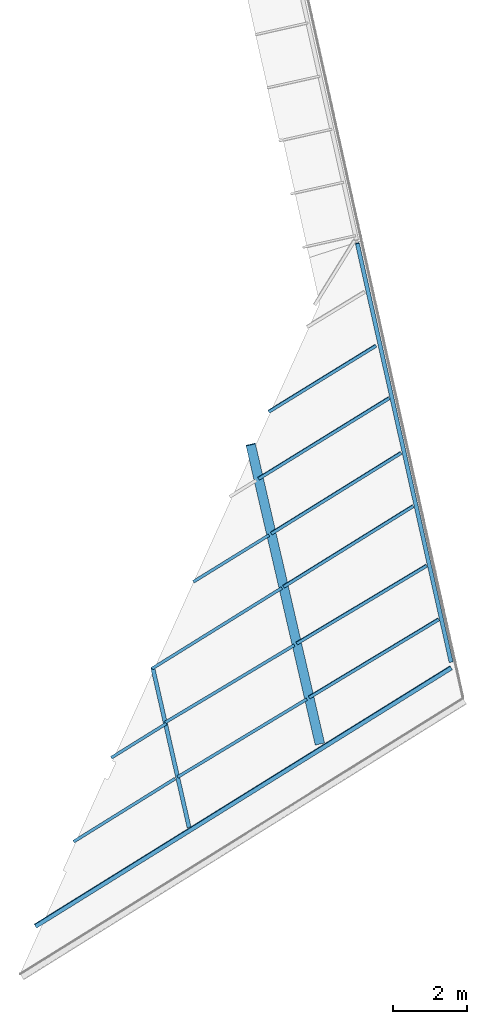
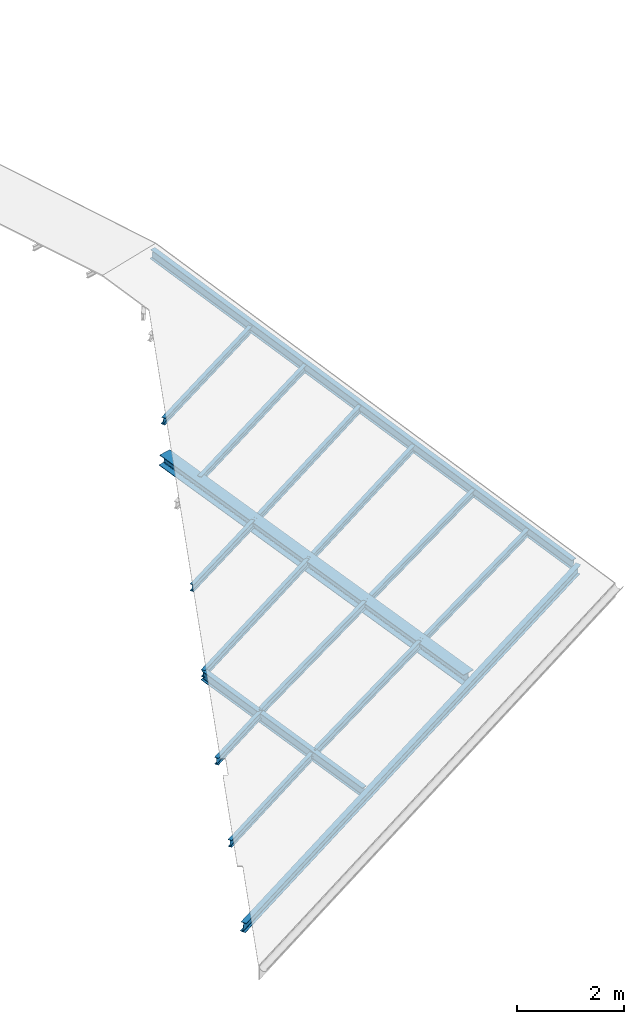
# One storey, part 1 of 5: 16 beams.
"""IFC2X3 building model written with IfcOpenShell, lengths in centimetres."""

from ifc_helpers import new_model, entity, si_unit, converted_unit, derived_unit, direction, frame, frame_2d, origin, place, context, subcontext, project, spatial, polyline, circle_curve, parameter, trimmed, segment, composite_curve, i_section, outline, extrude, clip, halfspace, material, type_object, element, save


model = new_model("IFC2X3")

# Units and contexts
model_context = context("Model", 3, precision=0.001, world=origin(), true_north=direction((6.12303176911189e-17, 1.0)))
body_context = subcontext(model_context, "Body", "Model", "MODEL_VIEW")
ifc_project = project(units=[si_unit("LENGTHUNIT", "METRE", prefix="CENTI"), si_unit("AREAUNIT", "SQUARE_METRE"), si_unit("VOLUMEUNIT", "CUBIC_METRE"), converted_unit("PLANEANGLEUNIT", "DEGREE", entity("IfcRatioMeasure", 0.0174532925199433), si_unit("PLANEANGLEUNIT", "RADIAN"), dimensions=[0, 0, 0, 0, 0, 0, 0]), si_unit("MASSUNIT", "GRAM", prefix="KILO"), derived_unit("MASSDENSITYUNIT", [(si_unit("MASSUNIT", "GRAM", prefix="KILO"), 1), (si_unit("LENGTHUNIT", "METRE"), -3)]), si_unit("TIMEUNIT", "SECOND"), si_unit("FREQUENCYUNIT", "HERTZ"), si_unit("THERMODYNAMICTEMPERATUREUNIT", "DEGREE_CELSIUS"), derived_unit("THERMALTRANSMITTANCEUNIT", [(si_unit("MASSUNIT", "GRAM", prefix="KILO"), 1), (si_unit("THERMODYNAMICTEMPERATUREUNIT", "KELVIN"), -1), (si_unit("TIMEUNIT", "SECOND"), -3)]), derived_unit("VOLUMETRICFLOWRATEUNIT", [(si_unit("LENGTHUNIT", "METRE"), 3), (si_unit("TIMEUNIT", "SECOND"), -1)]), si_unit("ELECTRICCURRENTUNIT", "AMPERE"), si_unit("ELECTRICVOLTAGEUNIT", "VOLT"), si_unit("POWERUNIT", "WATT"), si_unit("FORCEUNIT", "NEWTON", prefix="KILO"), si_unit("ILLUMINANCEUNIT", "LUX"), si_unit("LUMINOUSFLUXUNIT", "LUMEN"), si_unit("LUMINOUSINTENSITYUNIT", "CANDELA"), derived_unit("USERDEFINED", [(si_unit("MASSUNIT", "GRAM", prefix="KILO"), -1), (si_unit("LENGTHUNIT", "METRE"), -2), (si_unit("TIMEUNIT", "SECOND"), 3), (si_unit("LUMINOUSFLUXUNIT", "LUMEN"), 1)]), derived_unit("LINEARVELOCITYUNIT", [(si_unit("LENGTHUNIT", "METRE"), 1), (si_unit("TIMEUNIT", "SECOND"), -1)]), si_unit("PRESSUREUNIT", "PASCAL"), derived_unit("USERDEFINED", [(si_unit("LENGTHUNIT", "METRE"), -2), (si_unit("MASSUNIT", "GRAM", prefix="KILO"), 1), (si_unit("TIMEUNIT", "SECOND"), -2)])], contexts=[model_context])

# Site, building, storey
site_placement = place(None, frame((2611.71187422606, 13650.4058644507, 0.0), z_axis=(0.0, 0.0, 1.0), x_axis=(0.0673222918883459, -0.997731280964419, 0.0)))
site = spatial("IfcSite", under=ifc_project, at=site_placement, Name="Surface", CompositionType="ELEMENT")
building_placement = place(site_placement, origin())
building = spatial("IfcBuilding", under=site, at=building_placement, CompositionType="ELEMENT")
storey_placement = place(building_placement, frame((0.0, 0.0, 87229.0)))
storey = spatial("IfcBuildingStorey", under=building, at=storey_placement, Name="1 Toiture auvent", CompositionType="ELEMENT", Elevation=87229.0)

# Beams
ifc_material = material(Name="Acier structurel - S235")
beam_type_1 = type_object("IfcBeamType", Name="IPE160", PredefinedType="BEAM")
beam_1_placement = place(storey_placement, frame((4174.34667966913, 1517.22202797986, 60.0698627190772), z_axis=(-0.0011245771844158, 0.00218462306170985, 0.999996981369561), x_axis=(0.457686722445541, -0.88911013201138, 0.00245708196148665)))
element("IfcBeam", 1, at=beam_1_placement, inside=storey, type_object=beam_type_1, material=ifc_material, Name="IPE:IPE160", ObjectType="IPE:IPE160", context=body_context, shape_type="SweptSolid", body=[
    extrude(outline(composite_curve([segment(polyline([(-4.10000000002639, -7.25999999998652), (-4.10000000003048, -8.0)]), True, "CONTINUOUS"), segment(polyline([(-4.1000000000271, -8.0), (4.09999999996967, -8.0)]), True, "CONTINUOUS"), segment(polyline([(4.09999999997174, -8.0), (4.09999999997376, -7.26000000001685)]), True, "CONTINUOUS"), segment(polyline([(4.09999999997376, -7.26000000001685), (1.14999999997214, -7.26000000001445)]), True, "CONTINUOUS"), segment(trimmed(circle_curve(frame_2d((1.14999999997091, -6.36000000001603), x_axis=(-1.0, 0.0)), 0.899999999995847), [parameter(0.0)], [parameter(90.0000000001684)], True, "PARAMETER"), False, "CONTINUOUS"), segment(polyline([(0.249999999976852, -6.36000000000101), (0.250000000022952, 6.35999999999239)]), True, "CONTINUOUS"), segment(trimmed(circle_curve(frame_2d((1.1500000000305, 6.35999999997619), x_axis=(0.0, 1.0)), 0.900000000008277), [parameter(0.0)], [parameter(89.9999999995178)], True, "PARAMETER"), False, "CONTINUOUS"), segment(polyline([(1.15000000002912, 7.26000000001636), (4.10000000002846, 7.26000000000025)]), True, "CONTINUOUS"), segment(polyline([(4.10000000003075, 7.26000000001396), (4.10000000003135, 8.0)]), True, "CONTINUOUS"), segment(polyline([(4.10000000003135, 8.0), (-4.09999999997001, 8.0)]), True, "CONTINUOUS"), segment(polyline([(-4.09999999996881, 8.0), (-4.09999999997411, 7.26000000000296)]), True, "CONTINUOUS"), segment(polyline([(-4.09999999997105, 7.26000000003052), (-1.14999999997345, 7.26000000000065)]), True, "CONTINUOUS"), segment(trimmed(circle_curve(frame_2d((-1.14999999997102, 6.36000000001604), x_axis=(1.0, 0.0)), 0.899999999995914), [parameter(0.0)], [parameter(90.0000000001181)], True, "PARAMETER"), False, "CONTINUOUS"), segment(polyline([(-0.249999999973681, 6.36000000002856), (-0.25000000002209, -6.35999999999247)]), True, "CONTINUOUS"), segment(trimmed(circle_curve(frame_2d((-1.15000000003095, -6.35999999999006), x_axis=(0.0, -1.0)), 0.900000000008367), [parameter(0.0)], [parameter(89.9999999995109)], True, "PARAMETER"), False, "CONTINUOUS"), segment(polyline([(-1.15000000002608, -7.26000000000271), (-4.1000000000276, -7.26000000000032)]), True, "CONTINUOUS")], self_intersect=False)), frame((7.44547094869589, -0.697245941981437, -7.9695575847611), z_axis=(-1.0, 0.0, 0.0), x_axis=(0.0, -0.996194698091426, 0.0871557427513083)), (0.0, 0.0, -1.0), 410.480000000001),
])
beam_2_placement = place(storey_placement, frame((4026.99718966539, 1494.51044830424, 74.2319715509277), z_axis=(-0.000713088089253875, 0.00139598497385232, 0.99999877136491), x_axis=(0.45490040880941, -0.890540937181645, 0.0015675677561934)))
element("IfcBeam", 2, at=beam_2_placement, inside=storey, type_object=beam_type_1, material=ifc_material, Name="IPE:IPE160", ObjectType="IPE:IPE160", context=body_context, shape_type="SweptSolid", body=[
    extrude(outline(composite_curve([segment(polyline([(-4.1000000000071, -7.25999999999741), (-4.10000000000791, -8.0)]), True, "CONTINUOUS"), segment(polyline([(-4.10000000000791, -8.0), (4.09999999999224, -8.0)]), True, "CONTINUOUS"), segment(polyline([(4.09999999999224, -8.0), (4.09999999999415, -7.25999999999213)]), True, "CONTINUOUS"), segment(polyline([(4.09999999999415, -7.25999999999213), (1.14999999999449, -7.25999999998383)]), True, "CONTINUOUS"), segment(trimmed(circle_curve(frame_2d((1.14999999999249, -6.35999999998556), x_axis=(-1.0, 0.0)), 0.899999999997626), [parameter(0.0)], [parameter(89.9999999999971)], True, "PARAMETER"), False, "CONTINUOUS"), segment(polyline([(0.249999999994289, -6.36000000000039), (0.25000000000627, 6.35999999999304)]), True, "CONTINUOUS"), segment(trimmed(circle_curve(frame_2d((1.15000000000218, 6.35999999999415), x_axis=(0.0, 1.0)), 0.899999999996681), [parameter(0.0)], [parameter(90.0000000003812)], True, "PARAMETER"), False, "CONTINUOUS"), segment(polyline([(1.15000000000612, 7.25999999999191), (4.10000000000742, 7.25999999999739)]), True, "CONTINUOUS"), segment(polyline([(4.10000000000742, 7.25999999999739), (4.1000000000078, 8.0)]), True, "CONTINUOUS"), segment(polyline([(4.1000000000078, 8.0), (-4.09999999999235, 8.0)]), True, "CONTINUOUS"), segment(polyline([(-4.09999999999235, 8.0), (-4.09999999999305, 7.26000000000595)]), True, "CONTINUOUS"), segment(polyline([(-4.09999999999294, 7.26000000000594), (-1.14999999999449, 7.25999999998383)]), True, "CONTINUOUS"), segment(trimmed(circle_curve(frame_2d((-1.14999999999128, 6.35999999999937), x_axis=(1.0, 0.0)), 0.899999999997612), [parameter(0.0)], [parameter(89.9999999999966)], True, "PARAMETER"), False, "CONTINUOUS"), segment(polyline([(-0.24999999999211, 6.36000000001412), (-0.250000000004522, -6.35999999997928)]), True, "CONTINUOUS"), segment(trimmed(circle_curve(frame_2d((-1.15000000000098, -6.35999999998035), x_axis=(0.0, -1.0)), 0.899999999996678), [parameter(0.0)], [parameter(90.000000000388)], True, "PARAMETER"), False, "CONTINUOUS"), segment(polyline([(-1.15000000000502, -7.25999999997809), (-4.1000000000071, -7.25999999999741)]), True, "CONTINUOUS")], self_intersect=False)), frame((7.65494251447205, -0.697245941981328, -7.96955758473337), z_axis=(-1.0, 0.0, 0.0), x_axis=(0.0, -0.996194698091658, 0.0871557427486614)), (0.0, 0.0, -1.0), 410.910000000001),
])
beam_3_placement = place(storey_placement, frame((3863.14690837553, 1469.2555341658, 89.9800105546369), z_axis=(0.000635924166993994, -0.00119561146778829, 0.999999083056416), x_axis=(0.469589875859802, -0.882883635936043, -0.00135421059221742)))
element("IfcBeam", 3, at=beam_3_placement, inside=storey, type_object=beam_type_1, material=ifc_material, Name="IPE:IPE160", ObjectType="IPE:IPE160", context=body_context, shape_type="SweptSolid", body=[
    extrude(outline(composite_curve([segment(polyline([(-4.09999999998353, -7.26000000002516), (-4.09999999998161, -8.0)]), True, "CONTINUOUS"), segment(polyline([(-4.0999999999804, -8.0), (4.10000000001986, -8.0)]), True, "CONTINUOUS"), segment(polyline([(4.10000000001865, -8.0), (4.10000000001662, -7.26000000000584)]), True, "CONTINUOUS"), segment(polyline([(4.10000000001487, -7.2600000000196), (1.15000000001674, -7.26000000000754)]), True, "CONTINUOUS"), segment(trimmed(circle_curve(frame_2d((1.15000000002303, -6.35999999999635), x_axis=(-1.0, 0.0)), 0.900000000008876), [parameter(0.0)], [parameter(89.9999999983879)], True, "PARAMETER"), False, "CONTINUOUS"), segment(polyline([(0.250000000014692, -6.36000000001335), (0.249999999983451, 6.35999999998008)]), True, "CONTINUOUS"), segment(trimmed(circle_curve(frame_2d((1.14999999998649, 6.35999999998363), x_axis=(0.0, 1.0)), 0.900000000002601), [parameter(0.0)], [parameter(90.0000000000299)], True, "PARAMETER"), False, "CONTINUOUS"), segment(polyline([(1.14999999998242, 7.25999999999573), (4.09999999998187, 7.25999999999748)]), True, "CONTINUOUS"), segment(polyline([(4.09999999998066, 7.25999999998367), (4.09999999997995, 8.0)]), True, "CONTINUOUS"), segment(polyline([(4.0999999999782, 8.0), (-4.10000000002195, 8.0)]), True, "CONTINUOUS"), segment(polyline([(-4.10000000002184, 8.0), (-4.10000000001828, 7.25999999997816)]), True, "CONTINUOUS"), segment(polyline([(-4.10000000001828, 7.25999999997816), (-1.15000000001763, 7.25999999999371)]), True, "CONTINUOUS"), segment(trimmed(circle_curve(frame_2d((-1.1500000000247, 6.35999999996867), x_axis=(1.0, 0.0)), 0.900000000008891), [parameter(0.0)], [parameter(89.9999999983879)], True, "PARAMETER"), False, "CONTINUOUS"), segment(polyline([(-0.250000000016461, 6.35999999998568), (-0.249999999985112, -6.36000000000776)]), True, "CONTINUOUS"), segment(trimmed(circle_curve(frame_2d((-1.14999999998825, -6.3600000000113), x_axis=(0.0, -1.0)), 0.9000000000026), [parameter(0.0)], [parameter(90.0000000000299)], True, "PARAMETER"), False, "CONTINUOUS"), segment(polyline([(-1.14999999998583, -7.26000000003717), (-4.09999999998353, -7.26000000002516)]), True, "CONTINUOUS")], self_intersect=False)), frame((8.00067413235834, -0.697245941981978, -7.96955758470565), z_axis=(-1.0, 0.0, 0.0), x_axis=(0.0, -0.996194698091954, 0.0871557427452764)), (0.0, 0.0, -1.0), 414.07),
])
beam_4_placement = place(storey_placement, frame((3716.70792276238, 1446.68429425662, 104.054608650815), z_axis=(0.00117397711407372, -0.0022083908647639, 0.999996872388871), x_axis=(0.469393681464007, -0.882985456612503, -0.00250104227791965)))
element("IfcBeam", 4, at=beam_4_placement, inside=storey, type_object=beam_type_1, material=ifc_material, Name="IPE:IPE160", ObjectType="IPE:IPE160", context=body_context, shape_type="SweptSolid", body=[
    extrude(outline(composite_curve([segment(polyline([(-4.10000000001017, -7.25999999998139), (-4.10000000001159, -8.0)]), True, "CONTINUOUS"), segment(polyline([(-4.10000000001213, -8.0), (4.09999999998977, -8.0)]), True, "CONTINUOUS"), segment(polyline([(4.09999999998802, -8.0), (4.09999999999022, -7.25999999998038)]), True, "CONTINUOUS"), segment(polyline([(4.09999999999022, -7.25999999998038), (1.14999999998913, -7.25999999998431)]), True, "CONTINUOUS"), segment(trimmed(circle_curve(frame_2d((1.14999999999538, -6.35999999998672), x_axis=(-1.0, 0.0)), 0.900000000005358), [parameter(0.0)], [parameter(89.9999999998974)], True, "PARAMETER"), False, "CONTINUOUS"), segment(polyline([(0.249999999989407, -6.36000000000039), (0.250000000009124, 6.36000000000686)]), True, "CONTINUOUS"), segment(trimmed(circle_curve(frame_2d((1.15000000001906, 6.36000000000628), x_axis=(0.0, 1.0)), 0.90000000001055), [parameter(0.0)], [parameter(89.9999999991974)], True, "PARAMETER"), False, "CONTINUOUS"), segment(polyline([(1.1500000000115, 7.26000000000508), (4.10000000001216, 7.26000000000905)]), True, "CONTINUOUS"), segment(polyline([(4.10000000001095, 7.25999999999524), (4.10000000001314, 8.0)]), True, "CONTINUOUS"), segment(polyline([(4.10000000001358, 8.0), (-4.09999999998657, 8.0)]), True, "CONTINUOUS"), segment(polyline([(-4.09999999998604, 8.0), (-4.09999999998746, 7.26000000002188)]), True, "CONTINUOUS"), segment(polyline([(-4.09999999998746, 7.26000000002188), (-1.14999999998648, 7.26000000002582)]), True, "CONTINUOUS"), segment(trimmed(circle_curve(frame_2d((-1.14999999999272, 6.36000000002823), x_axis=(1.0, 0.0)), 0.900000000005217), [parameter(0.0)], [parameter(89.9999999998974)], True, "PARAMETER"), False, "CONTINUOUS"), segment(polyline([(-0.24999999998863, 6.36000000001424), (-0.250000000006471, -6.35999999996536)]), True, "CONTINUOUS"), segment(trimmed(circle_curve(frame_2d((-1.15000000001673, -6.35999999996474), x_axis=(0.0, -1.0)), 0.900000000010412), [parameter(0.0)], [parameter(89.9999999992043)], True, "PARAMETER"), False, "CONTINUOUS"), segment(polyline([(-1.15000000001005, -7.25999999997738), (-4.1000000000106, -7.25999999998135)]), True, "CONTINUOUS")], self_intersect=False)), frame((8.55211933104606, -0.697245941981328, -7.96955758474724), z_axis=(-1.0, 0.0, 0.0), x_axis=(0.0, -0.996194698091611, 0.0871557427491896)), (0.0, 0.0, -1.0), 414.550000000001),
])
beam_5_placement = place(storey_placement, frame((3566.83883240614, 1423.58435827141, 118.458882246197), z_axis=(-0.000680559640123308, 0.00128944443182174, 0.999998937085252), x_axis=(0.466768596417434, -0.884378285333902, 0.00145802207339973)))
element("IfcBeam", 5, at=beam_5_placement, inside=storey, type_object=beam_type_1, material=ifc_material, Name="IPE:IPE160", ObjectType="IPE:IPE160", context=body_context, shape_type="SweptSolid", body=[
    extrude(outline(composite_curve([segment(polyline([(-4.10000000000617, -7.25999999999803), (-4.10000000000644, -8.0)]), True, "CONTINUOUS"), segment(polyline([(-4.10000000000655, -8.0), (4.09999999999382, -8.0)]), True, "CONTINUOUS"), segment(polyline([(4.09999999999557, -8.0), (4.09999999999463, -7.26000000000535)]), True, "CONTINUOUS"), segment(polyline([(4.09999999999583, -7.25999999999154), (1.14999999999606, -7.25999999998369)]), True, "CONTINUOUS"), segment(trimmed(circle_curve(frame_2d((1.150000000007, -6.35999999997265), x_axis=(-1.0, 0.0)), 0.90000000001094), [parameter(0.0)], [parameter(89.9999999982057)], True, "PARAMETER"), False, "CONTINUOUS"), segment(polyline([(0.249999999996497, -6.35999999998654), (0.250000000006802, 6.36000000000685)]), True, "CONTINUOUS"), segment(trimmed(circle_curve(frame_2d((1.1500000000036, 6.36000000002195), x_axis=(0.0, 1.0)), 0.89999999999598), [parameter(0.0)], [parameter(90.0000000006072)], True, "PARAMETER"), False, "CONTINUOUS"), segment(polyline([(1.15000000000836, 7.26000000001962), (4.10000000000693, 7.25999999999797)]), True, "CONTINUOUS"), segment(polyline([(4.10000000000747, 7.25999999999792), (4.10000000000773, 8.0)]), True, "CONTINUOUS"), segment(polyline([(4.10000000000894, 8.0), (-4.09999999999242, 8.0)]), True, "CONTINUOUS"), segment(polyline([(-4.09999999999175, 8.0), (-4.09999999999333, 7.26000000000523)]), True, "CONTINUOUS"), segment(polyline([(-4.09999999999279, 7.26000000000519), (-1.14999999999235, 7.26000000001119)]), True, "CONTINUOUS"), segment(trimmed(circle_curve(frame_2d((-1.15000000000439, 6.35999999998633), x_axis=(1.0, 0.0)), 0.900000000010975), [parameter(0.0)], [parameter(89.9999999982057)], True, "PARAMETER"), False, "CONTINUOUS"), segment(polyline([(-0.249999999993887, 6.36000000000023), (-0.2500000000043, -6.35999999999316)]), True, "CONTINUOUS"), segment(trimmed(circle_curve(frame_2d((-1.1500000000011, -6.36000000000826), x_axis=(0.0, -1.0)), 0.89999999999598), [parameter(0.0)], [parameter(90.0000000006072)], True, "PARAMETER"), False, "CONTINUOUS"), segment(polyline([(-1.15000000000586, -7.26000000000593), (-4.10000000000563, -7.25999999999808)]), True, "CONTINUOUS")], self_intersect=False)), frame((7.44650761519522, -0.697245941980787, -7.9695575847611), z_axis=(-1.0, 0.0, 0.0), x_axis=(0.0, -0.996194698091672, 0.0871557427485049)), (0.0, 0.0, -1.0), 416.31),
])
beam_6_placement = place(storey_placement, frame((3420.68574162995, 1401.057184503, 132.506002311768), z_axis=(-0.000683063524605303, 0.00129611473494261, 0.999998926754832), x_axis=(0.466225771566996, -0.884664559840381, 0.00146509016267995)))
element("IfcBeam", 6, at=beam_6_placement, inside=storey, type_object=beam_type_1, material=ifc_material, Name="IPE:IPE160", ObjectType="IPE:IPE160", context=body_context, shape_type="SweptSolid", body=[
    extrude(outline(composite_curve([segment(polyline([(-4.1000000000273, -7.25999999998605), (-4.10000000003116, -8.0)]), True, "CONTINUOUS"), segment(polyline([(-4.10000000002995, -8.0), (4.099999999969, -8.0)]), True, "CONTINUOUS"), segment(polyline([(4.0999999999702, -8.0), (4.09999999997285, -7.26000000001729)]), True, "CONTINUOUS"), segment(polyline([(4.09999999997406, -7.26000000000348), (1.14999999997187, -7.26000000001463)]), True, "CONTINUOUS"), segment(trimmed(circle_curve(frame_2d((1.14999999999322, -6.35999999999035), x_axis=(-1.0, 0.0)), 0.900000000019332), [parameter(0.0)], [parameter(89.9999999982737)], True, "PARAMETER"), False, "CONTINUOUS"), segment(polyline([(0.249999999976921, -6.35999999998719), (0.250000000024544, 6.3600000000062)]), True, "CONTINUOUS"), segment(trimmed(circle_curve(frame_2d((1.15000000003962, 6.35999999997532), x_axis=(0.0, 1.0)), 0.900000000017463), [parameter(0.0)], [parameter(89.9999999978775)], True, "PARAMETER"), False, "CONTINUOUS"), segment(polyline([(1.15000000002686, 7.25999999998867), (4.10000000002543, 7.25999999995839)]), True, "CONTINUOUS"), segment(polyline([(4.10000000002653, 7.25999999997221), (4.10000000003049, 8.0)]), True, "CONTINUOUS"), segment(polyline([(4.1000000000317, 8.0), (-4.09999999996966, 8.0)]), True, "CONTINUOUS"), segment(polyline([(-4.09999999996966, 8.0), (-4.09999999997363, 7.26000000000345)]), True, "CONTINUOUS"), segment(polyline([(-4.09999999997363, 7.26000000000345), (-1.14999999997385, 7.25999999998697)]), True, "CONTINUOUS"), segment(trimmed(circle_curve(frame_2d((-1.14999999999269, 6.3599999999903), x_axis=(1.0, 0.0)), 0.900000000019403), [parameter(0.0)], [parameter(89.9999999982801)], True, "PARAMETER"), False, "CONTINUOUS"), segment(polyline([(-0.249999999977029, 6.3599999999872), (-0.25000000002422, -6.36000000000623)]), True, "CONTINUOUS"), segment(trimmed(circle_curve(frame_2d((-1.15000000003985, -6.35999999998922), x_axis=(0.0, -1.0)), 0.900000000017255), [parameter(0.0)], [parameter(89.9999999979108)], True, "PARAMETER"), False, "CONTINUOUS"), segment(polyline([(-1.15000000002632, -7.25999999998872), (-4.1000000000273, -7.25999999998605)]), True, "CONTINUOUS")], self_intersect=False)), frame((11.4179090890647, -0.697245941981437, -7.96955758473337), z_axis=(-1.0, 0.0, 0.0), x_axis=(0.0, -0.996194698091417, 0.087155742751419)), (0.0, 0.0, -1.0), 341.74),
])
beam_7_placement = place(storey_placement, frame((4061.23218573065, 1096.58750320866, 89.4195753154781), z_axis=(-0.000479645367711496, 0.000902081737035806, 0.999999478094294), x_axis=(0.469471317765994, -0.882947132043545, 0.00102167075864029)))
element("IfcBeam", 7, at=beam_7_placement, inside=storey, type_object=beam_type_1, material=ifc_material, Name="IPE:IPE160", ObjectType="IPE:IPE160", context=body_context, shape_type="SweptSolid", body=[
    extrude(i_section(OverallWidth=8.20000000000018, OverallDepth=15.9999999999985, WebThickness=0.499999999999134, FlangeThickness=0.739999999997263, FilletRadius=0.900000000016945, at=frame_2d((1.38609124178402e-11, -1.40110145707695e-12), x_axis=(0.0, 1.0))), frame((5.60692198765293, 0.0, -8.0), z_axis=(1.0, 0.0, 0.0), x_axis=(0.0, 0.0, -1.0)), (0.0, 0.0, 1.0), 414.08),
])
beam_8_placement = place(storey_placement, frame((4217.32740828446, 1121.74435765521, 74.8953094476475), z_axis=(-0.00105310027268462, 0.00206169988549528, 0.999997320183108), x_axis=(0.454884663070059, -0.890547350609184, 0.00231508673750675)))
element("IfcBeam", 8, at=beam_8_placement, inside=storey, type_object=beam_type_1, material=ifc_material, Name="IPE:IPE160", ObjectType="IPE:IPE160", context=body_context, shape_type="SweptSolid", body=[
    extrude(i_section(OverallWidth=8.19999999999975, OverallDepth=15.9999999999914, WebThickness=0.500000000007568, FlangeThickness=0.740000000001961, FilletRadius=0.900000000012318, at=frame_2d((-8.88178419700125e-16, 4.9737991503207e-14), x_axis=(0.0, 1.0))), frame((7.65050124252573, 0.0, -8.0), z_axis=(1.0, 0.0, 0.0), x_axis=(0.0, 0.0, -1.0)), (0.0, 0.0, 1.0), 407.96),
])
beam_9_placement = place(storey_placement, frame((4365.58580512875, 1145.63820173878, 61.1002404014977), z_axis=(-0.000773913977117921, 0.00150306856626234, 0.999998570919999), x_axis=(0.457771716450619, -0.889068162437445, 0.0016906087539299)))
element("IfcBeam", 9, at=beam_9_placement, inside=storey, type_object=beam_type_1, material=ifc_material, Name="IPE:IPE160", ObjectType="IPE:IPE160", context=body_context, shape_type="SweptSolid", body=[
    extrude(i_section(OverallWidth=8.20000000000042, OverallDepth=16.0000000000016, WebThickness=0.500000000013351, FlangeThickness=0.740000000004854, FilletRadius=0.899999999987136, at=frame_2d((0.0, -9.1926466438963e-13), x_axis=(0.0, 1.0))), frame((7.45091083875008, 0.0, -8.0), z_axis=(1.0, 0.0, 0.0), x_axis=(0.0, 0.0, -1.0)), (0.0, 0.0, 1.0), 409.170000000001),
])
beam_10_placement = place(storey_placement, frame((4556.30349154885, 775.233004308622, 61.8045849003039), z_axis=(0.000840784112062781, -0.00158128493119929, 0.999998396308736), x_axis=(0.469470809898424, -0.882946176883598, -0.00179091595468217)))
element("IfcBeam", 10, at=beam_10_placement, inside=storey, type_object=beam_type_1, material=ifc_material, Name="IPE:IPE160", ObjectType="IPE:IPE160", context=body_context, shape_type="Clipping", body=[
    clip(extrude(i_section(OverallWidth=8.20000000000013, OverallDepth=15.9999999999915, WebThickness=0.499999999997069, FlangeThickness=0.73999999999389, FilletRadius=0.899999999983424, at=frame_2d((-1.386135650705e-11, -2.9988456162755e-11), x_axis=(0.0, 1.0))), frame((8.54022428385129, 0.0, -8.0), z_axis=(1.0, 0.0, 0.0), x_axis=(0.0, 0.0, -1.0)), (0.0, 0.0, 1.0), 323.460000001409), halfspace(frame((53.4556808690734, 131.7684065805, -11.0434668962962), z_axis=(-0.945230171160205, 0.326400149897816, -0.00169283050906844), x_axis=(-0.325174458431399, -0.941205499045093, 0.091617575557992)), False)),
])
beam_11_placement = place(storey_placement, frame((3915.16060308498, 1073.04609378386, 103.011166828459), z_axis=(-0.00106870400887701, 0.0020258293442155, 0.999997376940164), x_axis=(0.466592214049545, -0.884469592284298, 0.00229043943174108)))
element("IfcBeam", 11, at=beam_11_placement, inside=storey, type_object=beam_type_1, material=ifc_material, Name="IPE:IPE160", ObjectType="IPE:IPE160", context=body_context, shape_type="SweptSolid", body=[
    extrude(i_section(OverallWidth=8.20000000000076, OverallDepth=16.0000000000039, WebThickness=0.499999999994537, FlangeThickness=0.739999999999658, FilletRadius=0.899999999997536, at=frame_2d((8.88178419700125e-16, -5.01820807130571e-14), x_axis=(0.0, 1.0))), frame((7.45055418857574, 0.0, -8.0), z_axis=(1.0, 0.0, 0.0), x_axis=(0.0, 0.0, -1.0)), (0.0, 0.0, 1.0), 240.900000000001),
])
beam_12_placement = place(storey_placement, frame((4410.66664633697, 752.297761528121, 75.4559070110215), z_axis=(0.000160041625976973, -0.000300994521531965, 0.999999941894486), x_axis=(0.469471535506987, -0.882947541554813, -0.000340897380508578)))
element("IfcBeam", 12, at=beam_12_placement, inside=storey, type_object=beam_type_1, material=ifc_material, Name="IPE:IPE160", ObjectType="IPE:IPE160", context=body_context, shape_type="SweptSolid", body=[
    extrude(i_section(OverallWidth=8.20000000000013, OverallDepth=15.999999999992, WebThickness=0.500000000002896, FlangeThickness=0.739999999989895, FilletRadius=0.900000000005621, at=frame_2d((0.0, 4.58744153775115e-13), x_axis=(0.0, 1.0))), frame((-2.03023376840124, 0.0, -8.0), z_axis=(1.0, 0.0, 0.0), x_axis=(0.0, 0.0, -1.0)), (0.0, 0.0, 1.0), 175.510000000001),
])
beam_type_2 = type_object("IfcBeamType", Name="IPE220", PredefinedType="BEAM")
beam_13_placement = place(storey_placement, frame((3141.97237707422, 1358.09795345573, 159.293804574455), z_axis=(0.0934612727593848, 0.0144055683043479, 0.995518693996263), x_axis=(0.983899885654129, 0.151652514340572, -0.0945649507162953)))
element("IfcBeam", 13, at=beam_13_placement, inside=storey, type_object=beam_type_2, material=ifc_material, Name="IPE:IPE220", ObjectType="IPE:IPE220", context=body_context, shape_type="SweptSolid", body=[
    extrude(i_section(OverallWidth=10.9999999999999, OverallDepth=21.9999999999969, WebThickness=0.589999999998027, FlangeThickness=0.919999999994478, FilletRadius=1.19999999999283, at=frame_2d((1.39195321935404e-11, 1.98063787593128e-13), x_axis=(0.0, 1.0))), frame((4.31039776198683, 0.0, -11.0), z_axis=(1.0, 0.0, 0.0), x_axis=(0.0, 0.0, -1.0)), (0.0, 0.0, 1.0), 1168.3),
])
beam_14_placement = place(storey_placement, frame((4305.92065719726, 1545.54183490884, 47.9448764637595), z_axis=(-4.83442429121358e-05, 9.09140710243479e-05, 0.999999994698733), x_axis=(0.46950467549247, -0.882929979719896, 0.000102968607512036)))
element("IfcBeam", 14, at=beam_14_placement, inside=storey, type_object=beam_type_2, material=ifc_material, Name="IPE:IPE220", ObjectType="IPE:IPE220", context=body_context, shape_type="SweptSolid", body=[
    extrude(outline(composite_curve([segment(polyline([(-5.50000000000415, -10.0799999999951), (-5.50000000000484, -11.0)]), True, "CONTINUOUS"), segment(polyline([(-5.50000000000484, -11.0), (5.4999999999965, -11.0)]), True, "CONTINUOUS"), segment(polyline([(5.49999999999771, -11.0), (5.49999999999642, -10.0799999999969)]), True, "CONTINUOUS"), segment(polyline([(5.4999999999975, -10.079999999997), (1.49499999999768, -10.07999999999)]), True, "CONTINUOUS"), segment(trimmed(circle_curve(frame_2d((1.49500000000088, -8.8800000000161), x_axis=(-1.0, 0.0)), 1.200000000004), [parameter(0.0)], [parameter(89.9999999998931)], True, "PARAMETER"), False, "CONTINUOUS"), segment(polyline([(0.294999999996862, -8.87999999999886), (0.295000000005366, 8.88000000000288)]), True, "CONTINUOUS"), segment(trimmed(circle_curve(frame_2d((1.49500000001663, 8.87999999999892), x_axis=(0.0, 1.0)), 1.20000000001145), [parameter(0.0)], [parameter(89.9999999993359)], True, "PARAMETER"), False, "CONTINUOUS"), segment(polyline([(1.4950000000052, 10.080000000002), (5.50000000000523, 10.079999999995)]), True, "CONTINUOUS"), segment(polyline([(5.50000000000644, 10.0800000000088), (5.50000000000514, 11.0)]), True, "CONTINUOUS"), segment(polyline([(5.50000000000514, 11.0), (-5.49999999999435, 11.0)]), True, "CONTINUOUS"), segment(polyline([(-5.49999999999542, 11.0), (-5.4999999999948, 10.0799999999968)]), True, "CONTINUOUS"), segment(polyline([(-5.49999999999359, 10.0800000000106), (-1.49499999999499, 10.0799999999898)]), True, "CONTINUOUS"), segment(trimmed(circle_curve(frame_2d((-1.4949999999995, 8.88000000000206), x_axis=(1.0, 0.0)), 1.20000000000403), [parameter(0.0)], [parameter(89.9999999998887)], True, "PARAMETER"), False, "CONTINUOUS"), segment(polyline([(-0.294999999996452, 8.87999999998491), (-0.29500000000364, -8.88000000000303)]), True, "CONTINUOUS"), segment(trimmed(circle_curve(frame_2d((-1.49500000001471, -8.88000000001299), x_axis=(0.0, -1.0)), 1.20000000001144), [parameter(0.0)], [parameter(89.9999999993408)], True, "PARAMETER"), False, "CONTINUOUS"), segment(polyline([(-1.49500000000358, -10.0800000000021), (-5.50000000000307, -10.0799999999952)]), True, "CONTINUOUS")], self_intersect=False)), frame((11.3212419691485, -0.958713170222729, -10.9581416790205), z_axis=(-1.0, 0.0, 0.0), x_axis=(0.0, -0.996194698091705, 0.0871557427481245)), (0.0, 0.0, -1.0), 1327.26),
])
beam_15_placement = place(storey_placement, frame((4703.233874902, 798.371956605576, 48.0320125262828), z_axis=(0.0910773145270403, 0.0143430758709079, 0.995740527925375), x_axis=(-0.983618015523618, -0.154902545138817, 0.0921997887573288)))
element("IfcBeam", 15, at=beam_15_placement, inside=storey, type_object=beam_type_2, material=ifc_material, Name="IPE:IPE220", ObjectType="IPE:IPE220", context=body_context, shape_type="SweptSolid", body=[
    extrude(i_section(OverallWidth=10.9999999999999, OverallDepth=21.9999999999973, WebThickness=0.589999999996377, FlangeThickness=0.919999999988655, FilletRadius=1.19999999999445, at=frame_2d((-3.5527136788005e-15, -2.67341704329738e-13), x_axis=(0.0, 1.0))), frame((8.96213634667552, 0.0, -11.0), z_axis=(1.0, 0.0, 0.0), x_axis=(0.0, 0.0, -1.0)), (0.0, 0.0, 1.0), 444.550000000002),
])
beam_type_3 = type_object("IfcBeamType", Name="HEA260", PredefinedType="BEAM")
beam_16_placement = place(storey_placement, frame((4506.49640394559, 1168.34784887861, 47.9888653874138), z_axis=(0.0903116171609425, 0.0145549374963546, 0.995807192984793), x_axis=(-0.983121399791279, -0.158443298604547, 0.0914769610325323)))
element("IfcBeam", 16, at=beam_16_placement, inside=storey, type_object=beam_type_3, material=ifc_material, Name="HE-A:HEA260", ObjectType="HE-A:HEA260", context=body_context, shape_type="SweptSolid", body=[
    extrude(i_section(OverallWidth=26.0, OverallDepth=25.0000000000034, WebThickness=0.749999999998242, FlangeThickness=1.250000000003, FilletRadius=2.39999999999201, at=frame_2d((-2.78443934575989e-11, 1.99840144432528e-13), x_axis=(0.0, 1.0))), frame((13.7799817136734, 0.0, -12.5000000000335), z_axis=(1.0, 0.0, 0.0), x_axis=(0.0, 0.0, -1.0)), (0.0, 0.0, 1.0), 835.910000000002),
])

save(model, "model.ifc")
